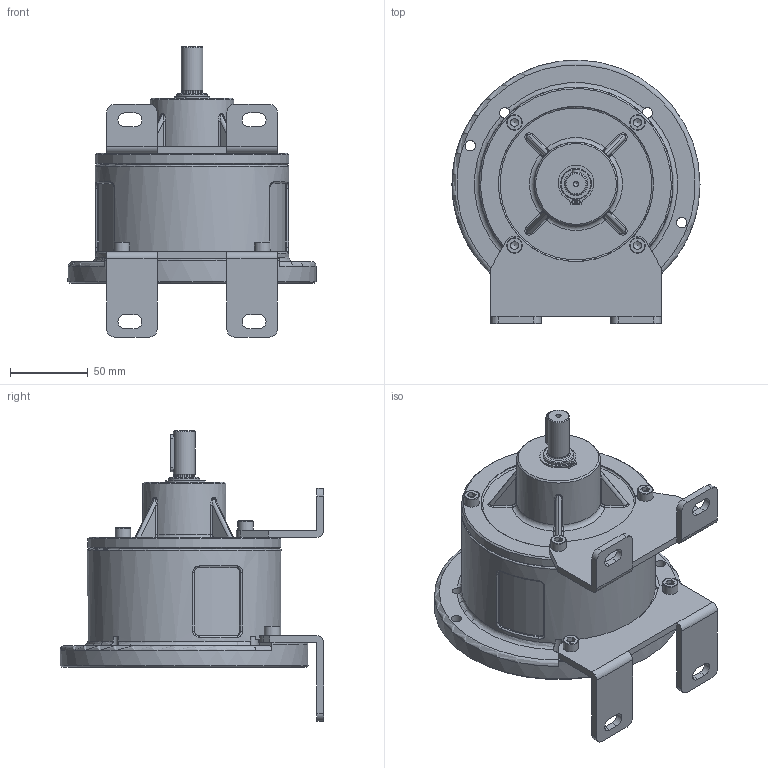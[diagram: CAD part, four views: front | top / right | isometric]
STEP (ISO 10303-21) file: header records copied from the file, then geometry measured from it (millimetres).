
FILE_DESCRIPTION (( 'STEP AP203' ), '1' );
FILE_NAME ('S-M10-K25.STEP', '2022-05-06T08:42:42', ( '' ), ( '' ), 'SwSTEP 2.0', 'SolidWorks 2015', '' );
FILE_SCHEMA (( 'CONFIG_CONTROL_DESIGN' ));
Length unit declared in the file: millimetre
Products named in the file (1): S-M10-K25
Bounding box: 160 x 169.99 x 187.05 mm (x, y, z)
Volume: 1205787.4 mm3; surface area: 115339.9 mm2
Topology: 1 solids, 1 shells, 349 faces, 861 edges, 529 vertices
Faces by surface type: plane 177, cylinder 102, bspline 32, torus 24, cone 14
Full cylindrical faces by diameter (mm): 2 x2, 3.3 x1, 6.75 x6, 10 x6, 13.6 x1, 14 x1, 18 x1, 20 x1, 25 x1, 42 x1, 54 x1, 75 x1, 100 x1, 110 x1, 125 x2, 160 x1
Entity records: 12029 total; most frequent: CARTESIAN_POINT 4115, DIRECTION 1636, ORIENTED_EDGE 1570, EDGE_CURVE 785, AXIS2_PLACEMENT_3D 613, VERTEX_POINT 506, EDGE_LOOP 439, VECTOR 410
